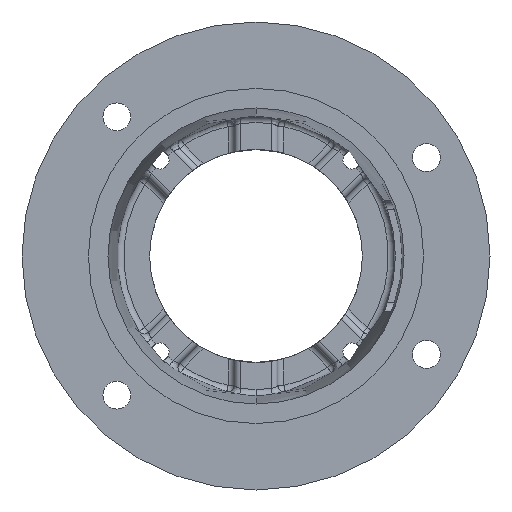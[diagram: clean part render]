
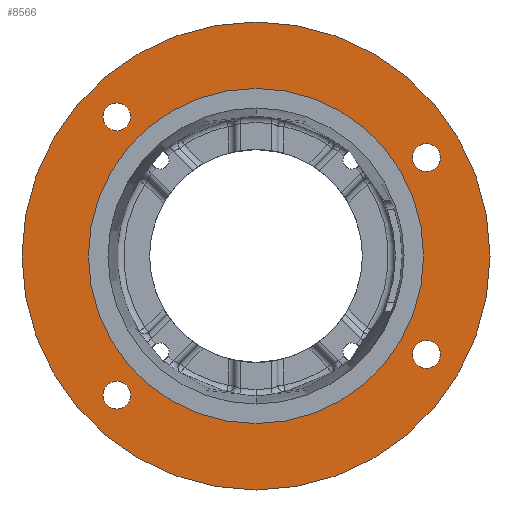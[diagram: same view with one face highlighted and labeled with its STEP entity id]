
A CAD part, front view. The second image highlights one B-rep face of the part: STEP entity #8566.
In plain terms, the highlighted planar face has unit normal (0, -1, 0).
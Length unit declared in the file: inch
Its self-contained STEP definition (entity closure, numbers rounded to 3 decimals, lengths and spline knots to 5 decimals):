
#21 = CARTESIAN_POINT ( 'NONE',  ( -3.27037, 0., -3.59849 ) ) ;
#109 = CARTESIAN_POINT ( 'NONE',  ( -3.27037, 0., 2.94224 ) ) ;
#372 = EDGE_LOOP ( 'NONE', ( #6389, #4759 ) ) ;
#502 = DIRECTION ( 'NONE',  ( 0., -1., 0. ) ) ;
#504 = DIRECTION ( 'NONE',  ( 0., 0., 1. ) ) ;
#618 = DIRECTION ( 'NONE',  ( 0., 0., -1. ) ) ;
#664 = DIRECTION ( 'NONE',  ( 0., -1., 0. ) ) ;
#723 = CARTESIAN_POINT ( 'NONE',  ( 0., 0., 0. ) ) ;
#916 = DIRECTION ( 'NONE',  ( 0., -1., 0. ) ) ;
#962 = CARTESIAN_POINT ( 'NONE',  ( -3.27037, 0., -3.27037 ) ) ;
#1001 = ORIENTED_EDGE ( 'NONE', *, *, #3223, .F. ) ;
#1035 = ORIENTED_EDGE ( 'NONE', *, *, #6834, .F. ) ;
#1126 = VERTEX_POINT ( 'NONE', #1380 ) ;
#1283 = FACE_BOUND ( 'NONE', #13360, .T. ) ;
#1310 = CIRCLE ( 'NONE', #12527, 0.32812 ) ;
#1380 = CARTESIAN_POINT ( 'NONE',  ( 0., 0., -5.5 ) ) ;
#1421 = CARTESIAN_POINT ( 'NONE',  ( -3.27037, 0., 3.59849 ) ) ;
#1759 = DIRECTION ( 'NONE',  ( 0., -1., 0. ) ) ;
#2076 = VERTEX_POINT ( 'NONE', #3306 ) ;
#2086 = DIRECTION ( 'NONE',  ( 0., 0., -1. ) ) ;
#2121 = AXIS2_PLACEMENT_3D ( 'NONE', #8828, #2271, #9867 ) ;
#2271 = DIRECTION ( 'NONE',  ( 0., -1., 0. ) ) ;
#2320 = CIRCLE ( 'NONE', #11225, 0.32812 ) ;
#2438 = CIRCLE ( 'NONE', #7552, 3.9385 ) ;
#2498 = CARTESIAN_POINT ( 'NONE',  ( 4.00537, 0., 2.64062 ) ) ;
#2574 = CARTESIAN_POINT ( 'NONE',  ( 0., 0., 0. ) ) ;
#2736 = EDGE_LOOP ( 'NONE', ( #7753, #5627 ) ) ;
#3144 = CARTESIAN_POINT ( 'NONE',  ( 4.00537, 0., 2.3125 ) ) ;
#3223 = EDGE_CURVE ( 'NONE', #6427, #7049, #2438, .T. ) ;
#3306 = CARTESIAN_POINT ( 'NONE',  ( 4.00537, 0., -1.98438 ) ) ;
#3576 = CIRCLE ( 'NONE', #2121, 0.32812 ) ;
#3628 = EDGE_LOOP ( 'NONE', ( #3960, #9058 ) ) ;
#3671 = VERTEX_POINT ( 'NONE', #1421 ) ;
#3713 = DIRECTION ( 'NONE',  ( 0., 0., -1. ) ) ;
#3723 = VERTEX_POINT ( 'NONE', #21 ) ;
#3830 = PLANE ( 'NONE',  #7052 ) ;
#3914 = FACE_OUTER_BOUND ( 'NONE', #2736, .T. ) ;
#3960 = ORIENTED_EDGE ( 'NONE', *, *, #4714, .F. ) ;
#4266 = DIRECTION ( 'NONE',  ( 0., 0., -1. ) ) ;
#4425 = CARTESIAN_POINT ( 'NONE',  ( 0., 0., 0. ) ) ;
#4500 = CIRCLE ( 'NONE', #11258, 0.32812 ) ;
#4504 = AXIS2_PLACEMENT_3D ( 'NONE', #12452, #6103, #13513 ) ;
#4647 = DIRECTION ( 'NONE',  ( 0., -1., 0. ) ) ;
#4714 = EDGE_CURVE ( 'NONE', #3723, #5595, #4500, .T. ) ;
#4752 = CIRCLE ( 'NONE', #9282, 0.32812 ) ;
#4759 = ORIENTED_EDGE ( 'NONE', *, *, #9520, .F. ) ;
#4811 = CARTESIAN_POINT ( 'NONE',  ( 0., 0., 5.5 ) ) ;
#5553 = DIRECTION ( 'NONE',  ( 0., 0., -1. ) ) ;
#5595 = VERTEX_POINT ( 'NONE', #12777 ) ;
#5627 = ORIENTED_EDGE ( 'NONE', *, *, #10318, .T. ) ;
#6055 = EDGE_CURVE ( 'NONE', #5595, #3723, #1310, .T. ) ;
#6103 = DIRECTION ( 'NONE',  ( 0., -1., 0. ) ) ;
#6128 = CARTESIAN_POINT ( 'NONE',  ( 0., 0., -3.9385 ) ) ;
#6133 = EDGE_CURVE ( 'NONE', #3671, #13269, #3576, .T. ) ;
#6389 = ORIENTED_EDGE ( 'NONE', *, *, #13409, .F. ) ;
#6427 = VERTEX_POINT ( 'NONE', #10415 ) ;
#6495 = DIRECTION ( 'NONE',  ( 0., -1., 0. ) ) ;
#6636 = CIRCLE ( 'NONE', #8594, 5.5 ) ;
#6738 = EDGE_LOOP ( 'NONE', ( #10022, #8243 ) ) ;
#6834 = EDGE_CURVE ( 'NONE', #7267, #7234, #9677, .T. ) ;
#6844 = FACE_BOUND ( 'NONE', #12211, .T. ) ;
#7049 = VERTEX_POINT ( 'NONE', #6128 ) ;
#7052 = AXIS2_PLACEMENT_3D ( 'NONE', #7098, #7140, #504 ) ;
#7098 = CARTESIAN_POINT ( 'NONE',  ( -5.5, 0., 0. ) ) ;
#7119 = ORIENTED_EDGE ( 'NONE', *, *, #12971, .F. ) ;
#7139 = CARTESIAN_POINT ( 'NONE',  ( 4.00537, 0., 2.3125 ) ) ;
#7140 = DIRECTION ( 'NONE',  ( 0., 1., 0. ) ) ;
#7234 = VERTEX_POINT ( 'NONE', #2498 ) ;
#7267 = VERTEX_POINT ( 'NONE', #12323 ) ;
#7539 = CARTESIAN_POINT ( 'NONE',  ( 4.00537, 0., -2.3125 ) ) ;
#7552 = AXIS2_PLACEMENT_3D ( 'NONE', #723, #664, #618 ) ;
#7583 = VERTEX_POINT ( 'NONE', #8659 ) ;
#7753 = ORIENTED_EDGE ( 'NONE', *, *, #11751, .T. ) ;
#8177 = CIRCLE ( 'NONE', #10503, 0.32812 ) ;
#8206 = DIRECTION ( 'NONE',  ( 0., 0., -1. ) ) ;
#8243 = ORIENTED_EDGE ( 'NONE', *, *, #6133, .F. ) ;
#8344 = CARTESIAN_POINT ( 'NONE',  ( 0., 0., 0. ) ) ;
#8383 = ORIENTED_EDGE ( 'NONE', *, *, #9524, .F. ) ;
#8566 = ADVANCED_FACE ( 'NONE', ( #1283, #9664, #9986, #12476, #6844, #3914 ), #3830, .F. ) ;
#8594 = AXIS2_PLACEMENT_3D ( 'NONE', #2574, #10169, #3713 ) ;
#8601 = DIRECTION ( 'NONE',  ( 0., 0., -1. ) ) ;
#8639 = DIRECTION ( 'NONE',  ( 0., -1., 0. ) ) ;
#8659 = CARTESIAN_POINT ( 'NONE',  ( 4.00537, 0., -2.64063 ) ) ;
#8828 = CARTESIAN_POINT ( 'NONE',  ( -3.27037, 0., 3.27037 ) ) ;
#8902 = AXIS2_PLACEMENT_3D ( 'NONE', #7139, #502, #8206 ) ;
#9058 = ORIENTED_EDGE ( 'NONE', *, *, #6055, .F. ) ;
#9282 = AXIS2_PLACEMENT_3D ( 'NONE', #12831, #6495, #13906 ) ;
#9395 = DIRECTION ( 'NONE',  ( 0., 0., -1. ) ) ;
#9520 = EDGE_CURVE ( 'NONE', #2076, #7583, #8177, .T. ) ;
#9524 = EDGE_CURVE ( 'NONE', #7234, #7267, #2320, .T. ) ;
#9664 = FACE_BOUND ( 'NONE', #372, .T. ) ;
#9677 = CIRCLE ( 'NONE', #8902, 0.32812 ) ;
#9867 = DIRECTION ( 'NONE',  ( 0., 0., -1. ) ) ;
#9949 = EDGE_CURVE ( 'NONE', #13269, #3671, #4752, .T. ) ;
#9956 = CIRCLE ( 'NONE', #4504, 0.32812 ) ;
#9986 = FACE_BOUND ( 'NONE', #3628, .T. ) ;
#10022 = ORIENTED_EDGE ( 'NONE', *, *, #9949, .F. ) ;
#10169 = DIRECTION ( 'NONE',  ( 0., -1., 0. ) ) ;
#10318 = EDGE_CURVE ( 'NONE', #12636, #1126, #10612, .T. ) ;
#10415 = CARTESIAN_POINT ( 'NONE',  ( 0., 0., 3.9385 ) ) ;
#10503 = AXIS2_PLACEMENT_3D ( 'NONE', #7539, #916, #8601 ) ;
#10612 = CIRCLE ( 'NONE', #13986, 5.5 ) ;
#10703 = DIRECTION ( 'NONE',  ( 0., -1., 0. ) ) ;
#11065 = CARTESIAN_POINT ( 'NONE',  ( -3.27037, 0., -3.27037 ) ) ;
#11225 = AXIS2_PLACEMENT_3D ( 'NONE', #3144, #10703, #4266 ) ;
#11258 = AXIS2_PLACEMENT_3D ( 'NONE', #11065, #4647, #12146 ) ;
#11502 = AXIS2_PLACEMENT_3D ( 'NONE', #8344, #1759, #9395 ) ;
#11751 = EDGE_CURVE ( 'NONE', #1126, #12636, #6636, .T. ) ;
#11924 = DIRECTION ( 'NONE',  ( 0., -1., 0. ) ) ;
#12146 = DIRECTION ( 'NONE',  ( 0., 0., -1. ) ) ;
#12211 = EDGE_LOOP ( 'NONE', ( #7119, #1001 ) ) ;
#12285 = CIRCLE ( 'NONE', #11502, 3.9385 ) ;
#12323 = CARTESIAN_POINT ( 'NONE',  ( 4.00537, 0., 1.98437 ) ) ;
#12452 = CARTESIAN_POINT ( 'NONE',  ( 4.00537, 0., -2.3125 ) ) ;
#12476 = FACE_BOUND ( 'NONE', #6738, .T. ) ;
#12527 = AXIS2_PLACEMENT_3D ( 'NONE', #962, #8639, #2086 ) ;
#12636 = VERTEX_POINT ( 'NONE', #4811 ) ;
#12777 = CARTESIAN_POINT ( 'NONE',  ( -3.27037, 0., -2.94224 ) ) ;
#12831 = CARTESIAN_POINT ( 'NONE',  ( -3.27037, 0., 3.27037 ) ) ;
#12971 = EDGE_CURVE ( 'NONE', #7049, #6427, #12285, .T. ) ;
#13269 = VERTEX_POINT ( 'NONE', #109 ) ;
#13360 = EDGE_LOOP ( 'NONE', ( #1035, #8383 ) ) ;
#13409 = EDGE_CURVE ( 'NONE', #7583, #2076, #9956, .T. ) ;
#13513 = DIRECTION ( 'NONE',  ( 0., 0., -1. ) ) ;
#13906 = DIRECTION ( 'NONE',  ( 0., 0., -1. ) ) ;
#13986 = AXIS2_PLACEMENT_3D ( 'NONE', #4425, #11924, #5553 ) ;
